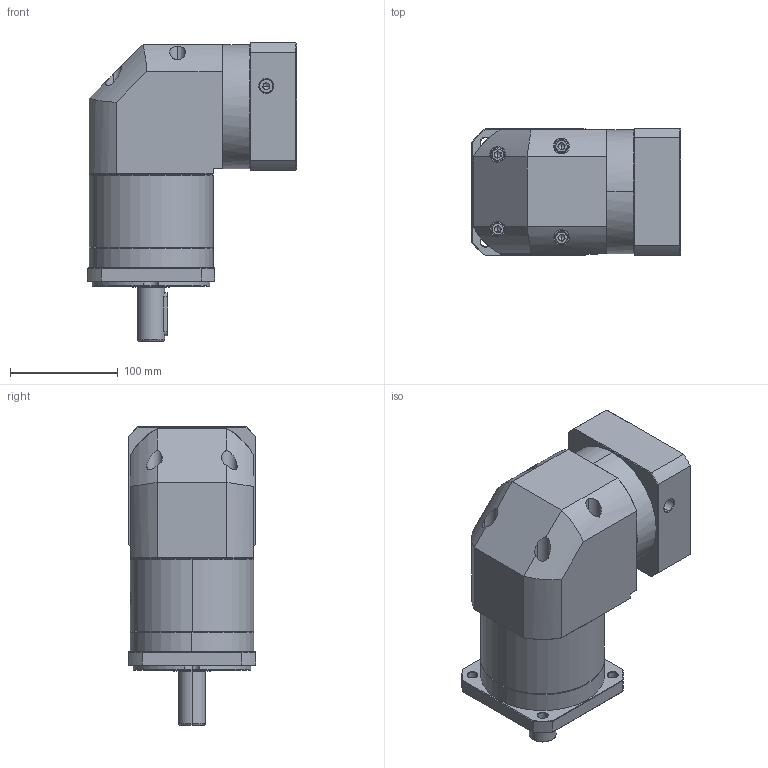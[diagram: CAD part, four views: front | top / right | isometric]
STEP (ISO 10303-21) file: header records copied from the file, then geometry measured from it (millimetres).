
FILE_DESCRIPTION (( 'STEP AP214' ), '1' );
FILE_NAME ('ZFR120A-D25-L2-P2-24-95-130-M8.step', '2023-08-27T08:04:08', ( '' ), ( '' ), 'SwSTEP 2.0', 'SolidWorks 2016', '' );
FILE_SCHEMA (( 'AUTOMOTIVE_DESIGN' ));
Length unit declared in the file: millimetre
Products named in the file (1): ZFR120A-D25-L2-P2-24-95-130-M8
Bounding box: 193.9 x 118 x 276.5 mm (x, y, z)
Volume: 3189975.5 mm3; surface area: 254183.2 mm2
Topology: 6 solids, 6 shells, 2265 faces, 5985 edges, 3825 vertices
Faces by surface type: plane 1061, cylinder 434, bspline 424, cone 338, torus 8
Entity records: 124161 total; most frequent: CARTESIAN_POINT 48695, ORIENTED_EDGE 11910, DIRECTION 8640, EDGE_CURVE 5955, VERTEX_POINT 3825, LINE 3160, VECTOR 3160, AXIS2_PLACEMENT_3D 2740
